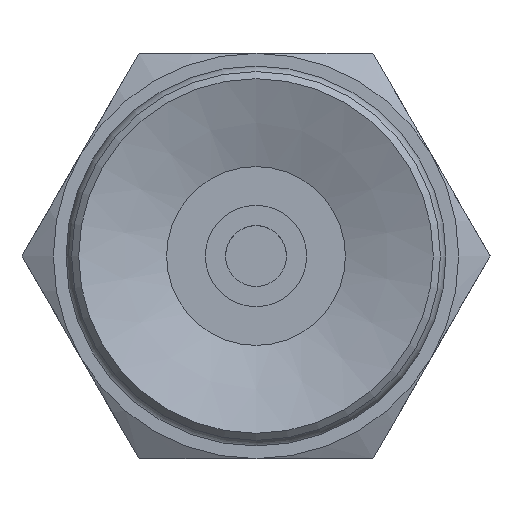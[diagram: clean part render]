
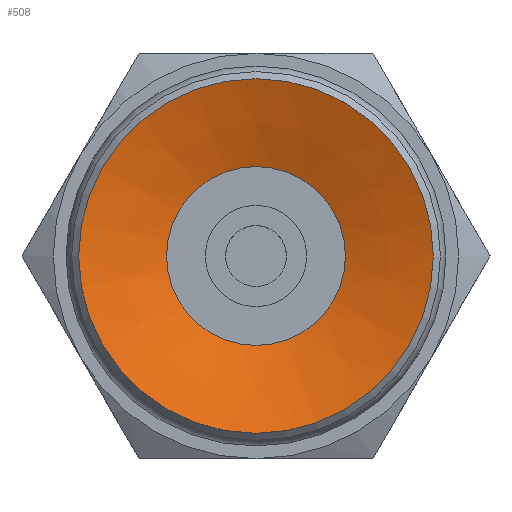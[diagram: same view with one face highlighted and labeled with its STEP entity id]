
A CAD part, front view. The second image highlights one B-rep face of the part: STEP entity #508.
In plain terms, the highlighted conical face has half-angle 70 degrees and reference radius 3.5 mm.
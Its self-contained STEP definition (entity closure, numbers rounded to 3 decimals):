
#508=ADVANCED_FACE('',(#790,#791),#792,.F.);
#790=FACE_BOUND('',#1081,.T.);
#791=FACE_OUTER_BOUND('',#1082,.T.);
#792=CONICAL_SURFACE('',#1083,3.5,1.222);
#1081=EDGE_LOOP('',(#1813));
#1082=EDGE_LOOP('',(#1814));
#1083=AXIS2_PLACEMENT_3D('',#1815,#1816,#1817);
#1813=ORIENTED_EDGE('',*,*,#2028,.F.);
#1814=ORIENTED_EDGE('',*,*,#2009,.T.);
#1815=CARTESIAN_POINT('',(0.0,0.0,0.0));
#1816=DIRECTION('',(-0.0,-1.0,0.));
#1817=DIRECTION('',(0.0,0.,-1.0));
#2009=EDGE_CURVE('',#2319,#2319,#2320,.T.);
#2028=EDGE_CURVE('',#2357,#2357,#2358,.T.);
#2319=VERTEX_POINT('',#3029);
#2320=CIRCLE('',#3030,3.5);
#2357=VERTEX_POINT('',#3067);
#2358=CIRCLE('',#3068,1.765);
#3029=CARTESIAN_POINT('',(0.0,0.,-3.5));
#3030=AXIS2_PLACEMENT_3D('',#3320,#3321,#3322);
#3067=CARTESIAN_POINT('',(0.0,0.632,-1.765));
#3068=AXIS2_PLACEMENT_3D('',#3377,#3378,#3379);
#3320=CARTESIAN_POINT('',(0.0,0.0,0.0));
#3321=DIRECTION('',(0.0,-1.0,0.));
#3322=DIRECTION('',(0.0,0.,-1.0));
#3377=CARTESIAN_POINT('',(0.0,0.632,0.0));
#3378=DIRECTION('',(0.0,-1.0,0.));
#3379=DIRECTION('',(0.0,0.,-1.0));
